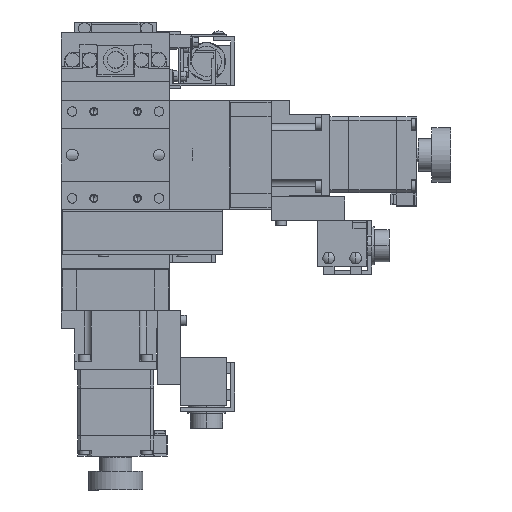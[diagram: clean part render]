
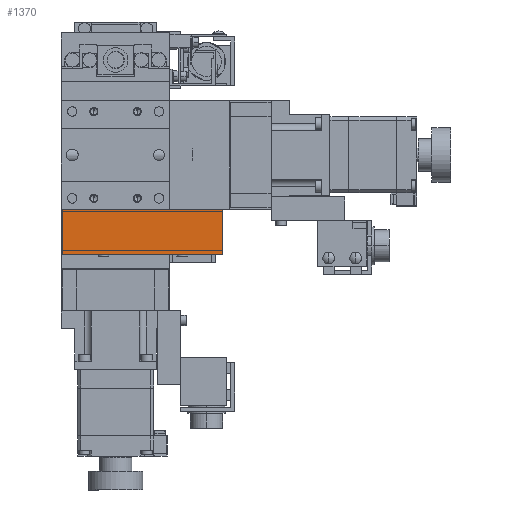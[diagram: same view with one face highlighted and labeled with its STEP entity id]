
A CAD part, front view. The second image highlights one B-rep face of the part: STEP entity #1370.
In plain terms, the highlighted planar face has unit normal (0, -1, 0).
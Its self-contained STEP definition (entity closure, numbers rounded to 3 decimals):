
#1370=ADVANCED_FACE('',(#4125),#4126,.F.);
#4125=FACE_OUTER_BOUND('',#8953,.T.);
#4126=PLANE('',#8954);
#8953=EDGE_LOOP('',(#16283,#16284,#16285,#16286));
#8954=AXIS2_PLACEMENT_3D('',#16287,#16288,#16289);
#16283=ORIENTED_EDGE('',*,*,#32124,.T.);
#16284=ORIENTED_EDGE('',*,*,#32125,.F.);
#16285=ORIENTED_EDGE('',*,*,#32126,.F.);
#16286=ORIENTED_EDGE('',*,*,#32110,.T.);
#16287=CARTESIAN_POINT('',(-19.5,0.5,-36.8));
#16288=DIRECTION('',(0.0,1.0,0.0));
#16289=DIRECTION('',(-1.0,0.0,0.0));
#32110=EDGE_CURVE('',#38506,#38504,#38507,.T.);
#32124=EDGE_CURVE('',#38504,#38532,#38533,.T.);
#32125=EDGE_CURVE('',#38534,#38532,#38535,.T.);
#32126=EDGE_CURVE('',#38506,#38534,#38536,.T.);
#38504=VERTEX_POINT('',#48612);
#38506=VERTEX_POINT('',#48615);
#38507=LINE('',#48616,#48617);
#38532=VERTEX_POINT('',#48655);
#38533=LINE('',#48656,#48657);
#38534=VERTEX_POINT('',#48658);
#38535=LINE('',#48659,#48660);
#38536=LINE('',#48661,#48662);
#48612=CARTESIAN_POINT('',(39.5,0.5,-36.8));
#48615=CARTESIAN_POINT('',(-19.5,0.5,-36.8));
#48616=CARTESIAN_POINT('',(-19.5,0.5,-36.8));
#48617=VECTOR('',#61774,1000.0);
#48655=CARTESIAN_POINT('',(39.5,0.5,-20.0));
#48656=CARTESIAN_POINT('',(39.5,0.5,-36.8));
#48657=VECTOR('',#61788,1000.0);
#48658=CARTESIAN_POINT('',(-19.5,0.5,-20.0));
#48659=CARTESIAN_POINT('',(-19.5,0.5,-20.0));
#48660=VECTOR('',#61789,1000.0);
#48661=CARTESIAN_POINT('',(-19.5,0.5,-36.8));
#48662=VECTOR('',#61790,1000.0);
#61774=DIRECTION('',(1.0,0.0,0.0));
#61788=DIRECTION('',(0.0,0.0,1.0));
#61789=DIRECTION('',(1.0,0.0,0.0));
#61790=DIRECTION('',(0.0,0.0,1.0));
